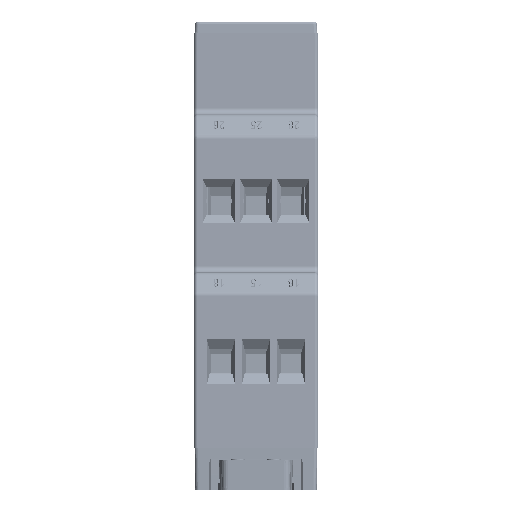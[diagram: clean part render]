
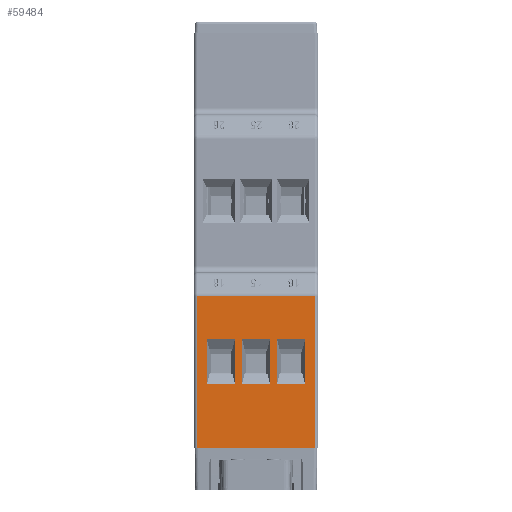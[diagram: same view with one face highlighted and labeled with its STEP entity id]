
A CAD part, front view. The second image highlights one B-rep face of the part: STEP entity #59484.
In plain terms, the highlighted planar face has unit normal (0, -1, 0.005).
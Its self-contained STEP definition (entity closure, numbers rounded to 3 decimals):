
#59484=ADVANCED_FACE('',(#212568,#212570,#212572,#212574),#212576,.T.);
#212568=FACE_BOUND('',#212569,.T.);
#212569=EDGE_LOOP('',(#387931,#387932,#387933,#387934));
#212570=FACE_BOUND('',#212571,.T.);
#212571=EDGE_LOOP('',(#387935,#387936,#387937,#387938));
#212572=FACE_BOUND('',#212573,.T.);
#212573=EDGE_LOOP('',(#387939,#387940,#387941,#387942));
#212574=FACE_BOUND('',#212575,.T.);
#212575=EDGE_LOOP('',(#387943,#387944,#387945,#387946));
#212576=PLANE('',#212577);
#212577=AXIS2_PLACEMENT_3D('',#212578,#212579,#212580);
#212578=CARTESIAN_POINT('',(-11.353,-44.466,-5.747));
#212579=DIRECTION('',(0.,-1.,0.005));
#212580=DIRECTION('',(-1.,0.,0.));
#387931=ORIENTED_EDGE('',*,*,#476328,.T.);
#387932=ORIENTED_EDGE('',*,*,#464775,.F.);
#387933=ORIENTED_EDGE('',*,*,#464691,.F.);
#387934=ORIENTED_EDGE('',*,*,#464742,.F.);
#387935=ORIENTED_EDGE('',*,*,#476154,.F.);
#387936=ORIENTED_EDGE('',*,*,#476152,.T.);
#387937=ORIENTED_EDGE('',*,*,#476147,.F.);
#387938=ORIENTED_EDGE('',*,*,#476161,.T.);
#387939=ORIENTED_EDGE('',*,*,#476129,.F.);
#387940=ORIENTED_EDGE('',*,*,#476143,.F.);
#387941=ORIENTED_EDGE('',*,*,#476136,.F.);
#387942=ORIENTED_EDGE('',*,*,#476134,.F.);
#387943=ORIENTED_EDGE('',*,*,#476119,.F.);
#387944=ORIENTED_EDGE('',*,*,#476111,.F.);
#387945=ORIENTED_EDGE('',*,*,#476109,.F.);
#387946=ORIENTED_EDGE('',*,*,#476122,.F.);
#464691=EDGE_CURVE('',#523438,#523439,#523440,.T.);
#464742=EDGE_CURVE('',#523512,#523438,#523515,.T.);
#464775=EDGE_CURVE('',#523439,#523559,#523560,.T.);
#476109=EDGE_CURVE('',#540560,#540562,#540563,.T.);
#476111=EDGE_CURVE('',#540562,#540565,#540566,.T.);
#476119=EDGE_CURVE('',#540565,#540575,#540577,.T.);
#476122=EDGE_CURVE('',#540575,#540560,#540582,.T.);
#476129=EDGE_CURVE('',#540590,#540592,#540593,.T.);
#476134=EDGE_CURVE('',#540592,#540598,#540599,.T.);
#476136=EDGE_CURVE('',#540598,#540601,#540602,.T.);
#476143=EDGE_CURVE('',#540601,#540590,#540611,.T.);
#476147=EDGE_CURVE('',#540616,#540618,#540619,.T.);
#476152=EDGE_CURVE('',#540624,#540618,#540625,.T.);
#476154=EDGE_CURVE('',#540624,#540627,#540628,.T.);
#476161=EDGE_CURVE('',#540616,#540627,#540637,.T.);
#476328=EDGE_CURVE('',#523512,#523559,#540876,.T.);
#523438=VERTEX_POINT('',#625480);
#523439=VERTEX_POINT('',#625481);
#523440=LINE('',#625482,#625483);
#523512=VERTEX_POINT('',#625688);
#523515=LINE('',#625697,#625698);
#523559=VERTEX_POINT('',#625824);
#523560=LINE('',#625825,#625826);
#540560=VERTEX_POINT('',#665741);
#540562=VERTEX_POINT('',#665745);
#540563=LINE('',#665746,#665747);
#540565=VERTEX_POINT('',#665752);
#540566=LINE('',#665753,#665754);
#540575=VERTEX_POINT('',#665776);
#540577=LINE('',#665780,#665781);
#540582=LINE('',#665791,#665792);
#540590=VERTEX_POINT('',#665811);
#540592=VERTEX_POINT('',#665815);
#540593=LINE('',#665816,#665817);
#540598=VERTEX_POINT('',#665831);
#540599=LINE('',#665832,#665833);
#540601=VERTEX_POINT('',#665838);
#540602=LINE('',#665839,#665840);
#540611=LINE('',#665862,#665863);
#540616=VERTEX_POINT('',#665873);
#540618=VERTEX_POINT('',#665877);
#540619=LINE('',#665878,#665879);
#540624=VERTEX_POINT('',#665893);
#540625=LINE('',#665894,#665895);
#540627=VERTEX_POINT('',#665900);
#540628=LINE('',#665901,#665902);
#540637=LINE('',#665924,#665925);
#540876=LINE('',#666738,#666739);
#625480=CARTESIAN_POINT('',(5.397,-44.579,-27.334));
#625481=CARTESIAN_POINT('',(-11.303,-44.579,-27.334));
#625482=CARTESIAN_POINT('',(5.397,-44.579,-27.334));
#625483=VECTOR('',#625484,1.);
#625484=DIRECTION('',(-1.,0.,0.));
#625688=CARTESIAN_POINT('',(5.397,-44.466,-5.747));
#625697=CARTESIAN_POINT('',(5.397,-44.466,-5.747));
#625698=VECTOR('',#625699,1.);
#625699=DIRECTION('',(0.,-0.005,-1.));
#625824=CARTESIAN_POINT('',(-11.303,-44.466,-5.747));
#625825=CARTESIAN_POINT('',(-11.303,-44.579,-27.334));
#625826=VECTOR('',#625827,1.);
#625827=DIRECTION('',(0.,0.005,1.));
#665741=CARTESIAN_POINT('',(0.033,-44.531,-18.273));
#665745=CARTESIAN_POINT('',(4.061,-44.531,-18.273));
#665746=CARTESIAN_POINT('',(0.033,-44.531,-18.273));
#665747=VECTOR('',#665748,1.);
#665748=DIRECTION('',(1.,0.,0.));
#665752=CARTESIAN_POINT('',(4.061,-44.498,-11.816));
#665753=CARTESIAN_POINT('',(4.061,-44.531,-18.273));
#665754=VECTOR('',#665755,1.);
#665755=DIRECTION('',(0.,0.005,1.));
#665776=CARTESIAN_POINT('',(0.033,-44.498,-11.816));
#665780=CARTESIAN_POINT('',(4.061,-44.498,-11.816));
#665781=VECTOR('',#665782,1.);
#665782=DIRECTION('',(-1.,0.,0.));
#665791=CARTESIAN_POINT('',(0.033,-44.498,-11.816));
#665792=VECTOR('',#665793,1.);
#665793=DIRECTION('',(0.,-0.005,-1.));
#665811=CARTESIAN_POINT('',(-4.967,-44.498,-11.816));
#665815=CARTESIAN_POINT('',(-4.967,-44.531,-18.273));
#665816=CARTESIAN_POINT('',(-4.967,-44.498,-11.816));
#665817=VECTOR('',#665818,1.);
#665818=DIRECTION('',(0.,-0.005,-1.));
#665831=CARTESIAN_POINT('',(-0.939,-44.531,-18.273));
#665832=CARTESIAN_POINT('',(-4.967,-44.531,-18.273));
#665833=VECTOR('',#665834,1.);
#665834=DIRECTION('',(1.,0.,0.));
#665838=CARTESIAN_POINT('',(-0.939,-44.498,-11.816));
#665839=CARTESIAN_POINT('',(-0.939,-44.531,-18.273));
#665840=VECTOR('',#665841,1.);
#665841=DIRECTION('',(0.,0.005,1.));
#665862=CARTESIAN_POINT('',(-0.939,-44.498,-11.816));
#665863=VECTOR('',#665864,1.);
#665864=DIRECTION('',(-1.,0.,0.));
#665873=CARTESIAN_POINT('',(-9.967,-44.498,-11.816));
#665877=CARTESIAN_POINT('',(-9.967,-44.531,-18.273));
#665878=CARTESIAN_POINT('',(-9.967,-44.498,-11.816));
#665879=VECTOR('',#665880,1.);
#665880=DIRECTION('',(0.,-0.005,-1.));
#665893=CARTESIAN_POINT('',(-5.939,-44.531,-18.273));
#665894=CARTESIAN_POINT('',(-5.939,-44.531,-18.273));
#665895=VECTOR('',#665896,1.);
#665896=DIRECTION('',(-1.,0.,0.));
#665900=CARTESIAN_POINT('',(-5.939,-44.498,-11.816));
#665901=CARTESIAN_POINT('',(-5.939,-44.531,-18.273));
#665902=VECTOR('',#665903,1.);
#665903=DIRECTION('',(0.,0.005,1.));
#665924=CARTESIAN_POINT('',(-9.967,-44.498,-11.816));
#665925=VECTOR('',#665926,1.);
#665926=DIRECTION('',(1.,0.,0.));
#666738=CARTESIAN_POINT('',(5.397,-44.466,-5.747));
#666739=VECTOR('',#666740,1.);
#666740=DIRECTION('',(-1.,0.,0.));
